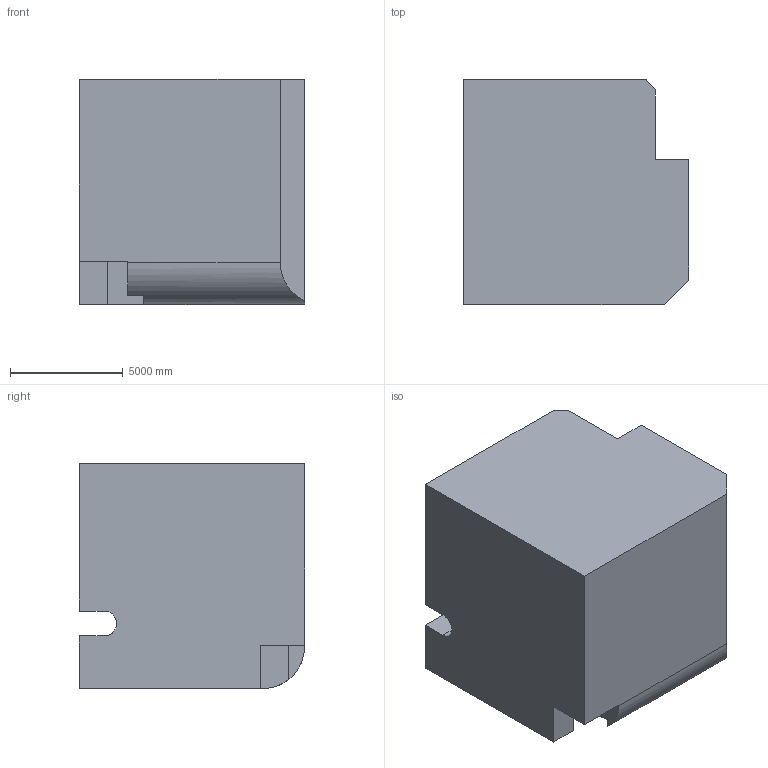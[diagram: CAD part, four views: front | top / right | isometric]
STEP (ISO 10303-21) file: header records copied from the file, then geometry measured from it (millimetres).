
FILE_DESCRIPTION (( 'STEP AP203' ), '1' );
FILE_NAME ('895.STEP', '2022-07-29T14:04:57', ( 'user' ), ( '' ), 'SwSTEP 2.0', 'SolidWorks 2021', '' );
FILE_SCHEMA (( 'CONFIG_CONTROL_DESIGN' ));
Length unit declared in the file: centimetre
Products named in the file (1): 895
Bounding box: 10000 x 10000 x 10000 mm (x, y, z)
Volume: 845263090610 mm3; surface area: 691375516.4 mm2
Topology: 1 solids, 1 shells, 33 faces, 93 edges, 62 vertices
Faces by surface type: plane 26, cylinder 7
Entity records: 1238 total; most frequent: CARTESIAN_POINT 313, ORIENTED_EDGE 186, DIRECTION 165, EDGE_CURVE 93, VECTOR 73, LINE 73, VERTEX_POINT 62, AXIS2_PLACEMENT_3D 46
